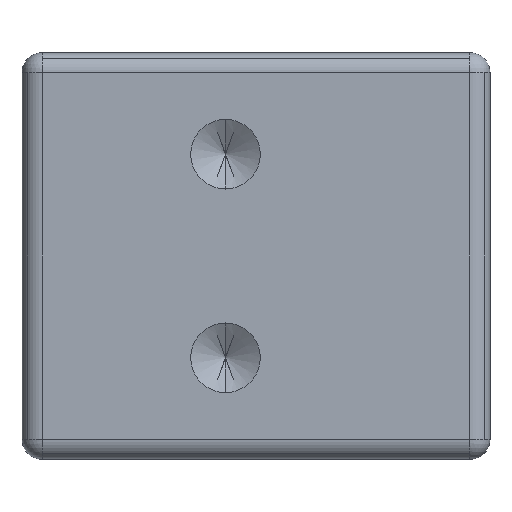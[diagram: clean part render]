
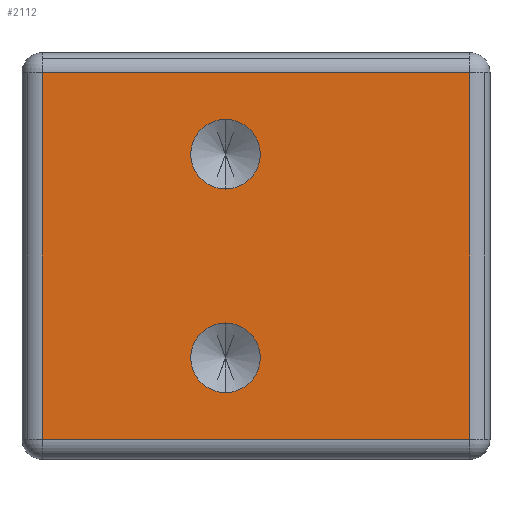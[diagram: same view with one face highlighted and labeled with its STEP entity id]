
A CAD part, front view. The second image highlights one B-rep face of the part: STEP entity #2112.
In plain terms, the highlighted planar face has unit normal (0, -1, 0).
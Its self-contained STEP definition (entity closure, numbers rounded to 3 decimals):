
#132=CARTESIAN_POINT('',(331.952,617.537,13.289));
#133=VERTEX_POINT('',#132);
#149=CARTESIAN_POINT('',(331.952,617.537,16.711));
#150=VERTEX_POINT('',#149);
#157=CARTESIAN_POINT('',(331.952,617.537,15.0));
#158=DIRECTION('',(0.0,1.0,0.0));
#159=DIRECTION('',(0.0,0.0,-1.0));
#160=AXIS2_PLACEMENT_3D('',#157,#158,#159);
#161=CIRCLE('',#160,1.711);
#162=EDGE_CURVE('',#133,#150,#161,.T.);
#203=CARTESIAN_POINT('',(331.952,617.537,3.289));
#204=VERTEX_POINT('',#203);
#220=CARTESIAN_POINT('',(331.952,617.537,6.711));
#221=VERTEX_POINT('',#220);
#228=CARTESIAN_POINT('',(331.952,617.537,5.0));
#229=DIRECTION('',(0.0,1.0,0.0));
#230=DIRECTION('',(0.0,0.0,-1.0));
#231=AXIS2_PLACEMENT_3D('',#228,#229,#230);
#232=CIRCLE('',#231,1.711);
#233=EDGE_CURVE('',#204,#221,#232,.T.);
#714=CARTESIAN_POINT('',(322.952,617.537,1.0));
#715=VERTEX_POINT('',#714);
#723=CARTESIAN_POINT('',(322.952,617.537,19.0));
#724=VERTEX_POINT('',#723);
#725=CARTESIAN_POINT('',(322.952,617.537,1.0));
#726=DIRECTION('',(0.0,0.0,1.0));
#727=VECTOR('',#726,18.0);
#728=LINE('',#725,#727);
#729=EDGE_CURVE('',#715,#724,#728,.T.);
#1658=CARTESIAN_POINT('',(343.952,617.537,19.0));
#1659=VERTEX_POINT('',#1658);
#1753=CARTESIAN_POINT('',(343.952,617.537,1.0));
#1754=VERTEX_POINT('',#1753);
#1806=CARTESIAN_POINT('',(343.952,617.537,1.0));
#1807=DIRECTION('',(-1.0,0.0,0.0));
#1808=VECTOR('',#1807,21.0);
#1809=LINE('',#1806,#1808);
#1810=EDGE_CURVE('',#1754,#715,#1809,.T.);
#1823=CARTESIAN_POINT('',(343.952,617.537,19.0));
#1824=DIRECTION('',(0.0,0.0,-1.0));
#1825=VECTOR('',#1824,18.0);
#1826=LINE('',#1823,#1825);
#1827=EDGE_CURVE('',#1659,#1754,#1826,.T.);
#1908=CARTESIAN_POINT('',(322.952,617.537,19.0));
#1909=DIRECTION('',(1.0,0.0,0.0));
#1910=VECTOR('',#1909,21.0);
#1911=LINE('',#1908,#1910);
#1912=EDGE_CURVE('',#724,#1659,#1911,.T.);
#2081=CARTESIAN_POINT('',(321.902,617.537,19.9));
#2082=DIRECTION('',(0.0,-1.0,0.0));
#2083=DIRECTION('',(0.0,0.0,-1.0));
#2084=AXIS2_PLACEMENT_3D('',#2081,#2082,#2083);
#2085=PLANE('',#2084);
#2086=ORIENTED_EDGE('',*,*,#1810,.F.);
#2087=ORIENTED_EDGE('',*,*,#1827,.F.);
#2088=ORIENTED_EDGE('',*,*,#1912,.F.);
#2089=ORIENTED_EDGE('',*,*,#729,.F.);
#2090=EDGE_LOOP('',(#2086,#2087,#2088,#2089));
#2091=FACE_OUTER_BOUND('',#2090,.T.);
#2092=ORIENTED_EDGE('',*,*,#162,.T.);
#2093=CARTESIAN_POINT('',(331.952,617.537,15.0));
#2094=DIRECTION('',(0.0,1.0,0.0));
#2095=DIRECTION('',(0.0,0.0,-1.0));
#2096=AXIS2_PLACEMENT_3D('',#2093,#2094,#2095);
#2097=CIRCLE('',#2096,1.711);
#2098=EDGE_CURVE('',#150,#133,#2097,.T.);
#2099=ORIENTED_EDGE('',*,*,#2098,.T.);
#2100=EDGE_LOOP('',(#2092,#2099));
#2101=FACE_BOUND('',#2100,.T.);
#2102=ORIENTED_EDGE('',*,*,#233,.T.);
#2103=CARTESIAN_POINT('',(331.952,617.537,5.0));
#2104=DIRECTION('',(0.0,1.0,0.0));
#2105=DIRECTION('',(0.0,0.0,-1.0));
#2106=AXIS2_PLACEMENT_3D('',#2103,#2104,#2105);
#2107=CIRCLE('',#2106,1.711);
#2108=EDGE_CURVE('',#221,#204,#2107,.T.);
#2109=ORIENTED_EDGE('',*,*,#2108,.T.);
#2110=EDGE_LOOP('',(#2102,#2109));
#2111=FACE_BOUND('',#2110,.T.);
#2112=ADVANCED_FACE('',(#2091,#2101,#2111),#2085,.T.);
